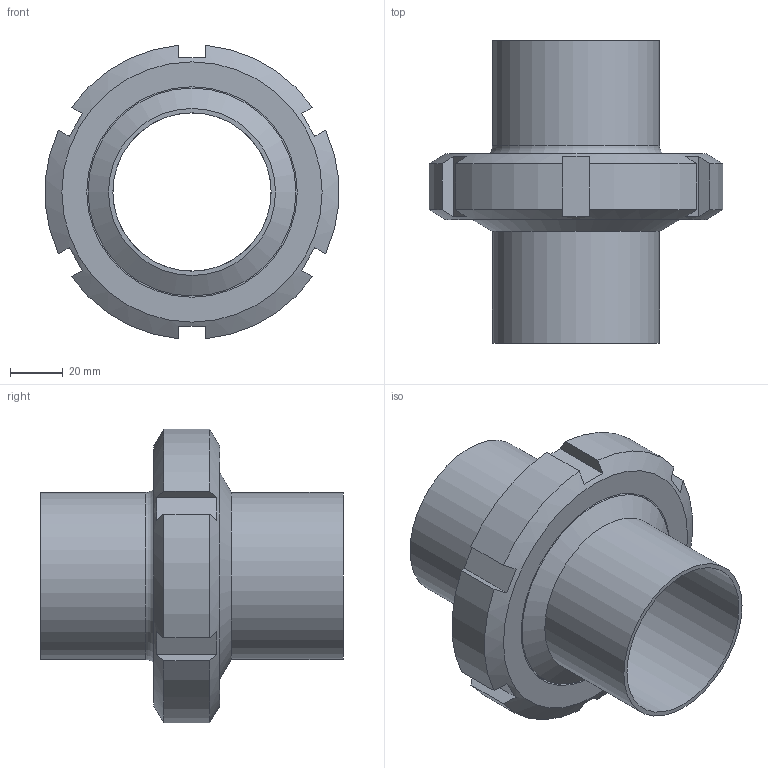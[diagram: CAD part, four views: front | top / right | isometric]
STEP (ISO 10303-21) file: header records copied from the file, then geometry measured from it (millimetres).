
FILE_DESCRIPTION(/* description */ ('Aseptik_Rohrverbindung_DIN 11864-1-A_63,5x1,65_L115'),/* implementation_level */ '2;1');
FILE_NAME(/* name */ 'L:\Normteile\N0024 - Rohrverbindungen\N0024_002 - DIN11864\N0024_002_001 - geschraubt\N0024_002_001\Step Marketing\DIN11864-1-A_63,5x1,65_L115.stp',/* time_stamp */ '2021-08-31T10:29:57+02:00',/* author */ ('Csasse'),/* organization */ ('Dockweiler AG'),/* preprocessor_version */ 'ST-DEVELOPER v18',/* originating_system */ 'Autodesk Inventor 2020',/* authorisation */ '');
FILE_SCHEMA (('AUTOMOTIVE_DESIGN { 1 0 10303 214 3 1 1 }'));
Length unit declared in the file: millimetre
Products named in the file (5): N0024_002_001_54; N0003_007_001_26; N0003_007_002_26; N0005_005_002_001_27; N0009_009_18
Assembly tree (4 placements, depth 2):
  N0024_002_001_54
    N0003_007_001_26
    N0003_007_002_26
    N0005_005_002_001_27
    N0009_009_18
Bounding box: 111.58 x 115 x 111.55 mm (x, y, z)
Volume: 195802 mm3; surface area: 91030.2 mm2
Topology: 4 solids, 4 shells, 68 faces, 200 edges, 144 vertices
Faces by surface type: plane 30, cylinder 16, torus 12, cone 10
Full cylindrical faces by diameter (mm): 60.2 x2, 63.5 x2, 79 x1, 80 x1, 84.9 x1, 85 x1, 90.767 x1, 95.423 x1
Entity records: 2600 total; most frequent: CARTESIAN_POINT 497, DIRECTION 434, ORIENTED_EDGE 400, EDGE_CURVE 200, AXIS2_PLACEMENT_3D 195, VERTEX_POINT 144, CIRCLE 118, EDGE_LOOP 80
